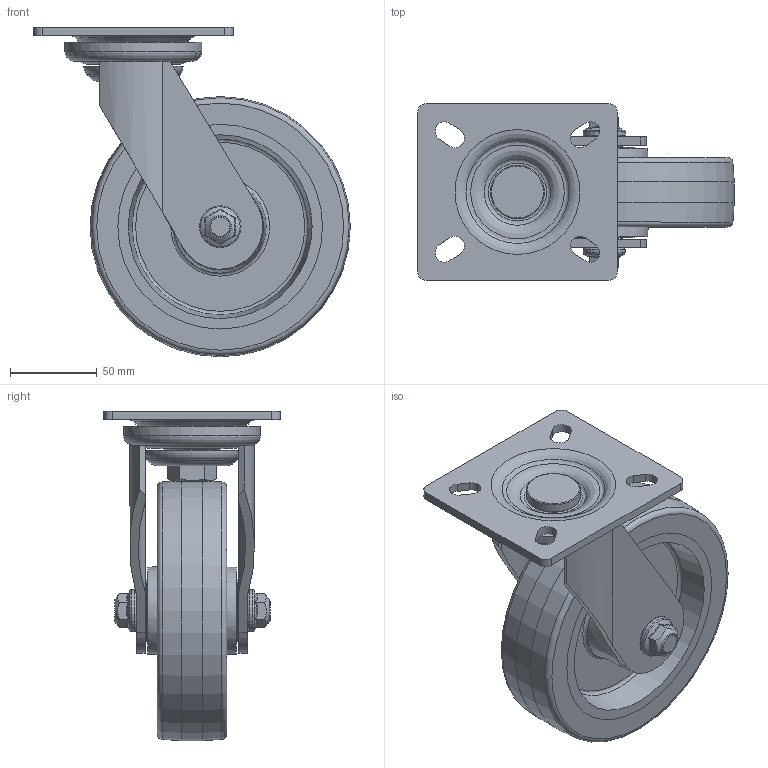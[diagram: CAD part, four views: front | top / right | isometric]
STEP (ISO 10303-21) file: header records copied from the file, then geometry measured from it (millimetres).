
FILE_DESCRIPTION((''),'2;1');
FILE_NAME('C:\Documents and Settings\Administrator\바탕 화면\3D STEP\PM-SERIES\PM-150A-SF\PM-150A-SF.stp','2010-12-27T15:04:16',('Administrator'),(''),'Autodesk Inventor 2009','Autodesk Inventor 2009','');
FILE_SCHEMA(('AUTOMOTIVE_DESIGN { 1 0 10303 214 1 1 1 1 }'));
Length unit declared in the file: millimetre
Products named in the file (1): PM-150A-SF
Bounding box: 182.5 x 102 x 190 mm (x, y, z)
Volume: 547200.9 mm3; surface area: 164398.4 mm2
Topology: 3 solids, 6 shells, 240 faces, 570 edges, 375 vertices
Faces by surface type: plane 108, cylinder 56, bspline 30, torus 25, cone 21
Full cylindrical faces by diameter (mm): 12 x1, 15 x2, 15.2 x2, 16 x2, 18 x2, 21.5 x1, 24 x2, 30 x1, 30.5 x2, 31 x1, 35 x2, 69 x1, 79 x1, 120 x1, 150 x1
Entity records: 8190 total; most frequent: CARTESIAN_POINT 3098, DIRECTION 1026, ORIENTED_EDGE 946, EDGE_CURVE 473, AXIS2_PLACEMENT_3D 420, EDGE_LOOP 376, VERTEX_POINT 350, FACE_OUTER_BOUND 238
